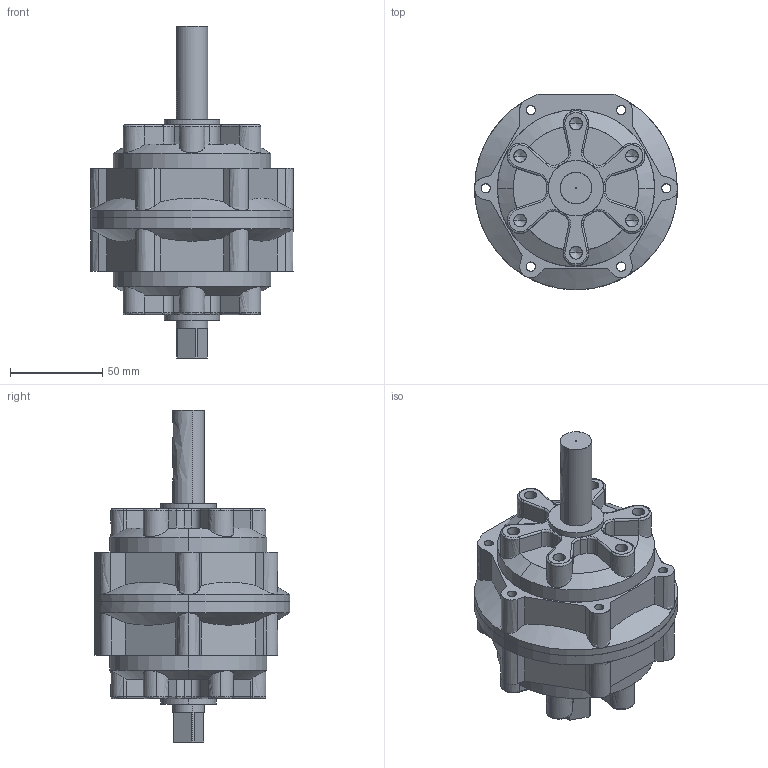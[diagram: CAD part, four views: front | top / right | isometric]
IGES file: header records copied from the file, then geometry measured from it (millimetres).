
Start section: SolidWorks IGES file using analytic representation for surfaces
Global section: file name: C:\Users\Chieh_Lu\Dropbox\¤u§@«Ç\PRN50-150-300-800\PRN150\PRN150\PRN150.IGS; native system: SolidWorks 2014; preprocessor: SolidWorks 2014; author: Chieh_Lu; date: 160115.004154; units: millimetre
Bounding box: 110 x 106.11 x 180 mm (x, y, z)
Surface area: 96377.8 mm2 (no closed solid volume)
Topology: 0 solids, 0 shells, 485 faces, 6315 edges, 6287 vertices
Faces by surface type: revolution 252, bspline 233
